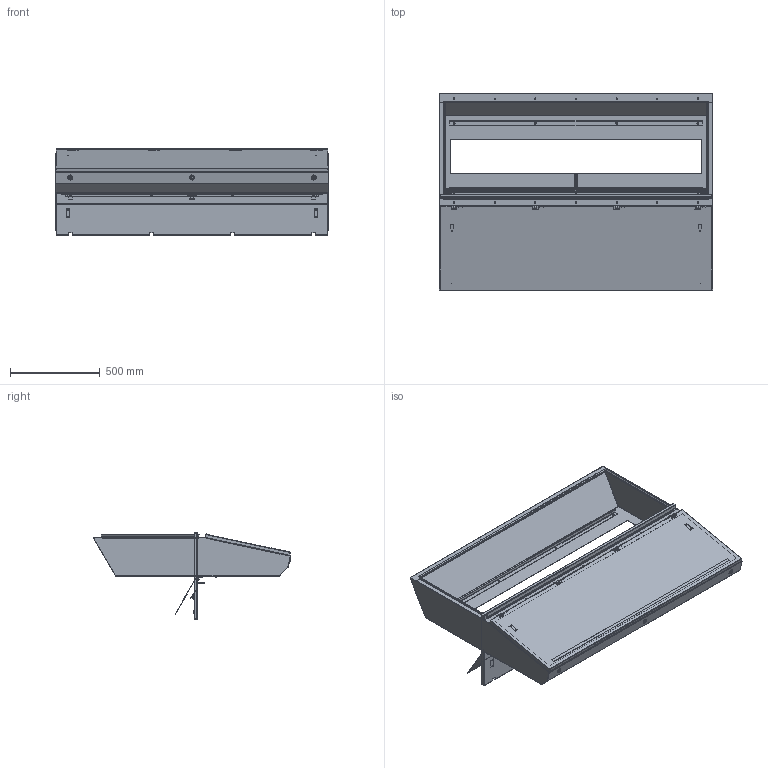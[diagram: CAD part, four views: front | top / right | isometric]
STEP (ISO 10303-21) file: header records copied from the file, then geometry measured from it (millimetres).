
FILE_DESCRIPTION( ( 'Unknown' ), '1' );
FILE_NAME( 'Q:/2000 SERIES/DESK UNITS/WEB DRAWINGS/STEP/2CSD86043.stp', 'Unknown', ( 'Unknown' ), ( 'Unknown' ), 'XStep 1.0', 'Unknown', ' ' );
FILE_SCHEMA( ( 'CONFIG_CONTROL_DESIGN' ) );
Length unit declared in the file: millimetre
Products named in the file (32): Assem1; Assem2; Assem3; Assem4; Assem5; Assem6; Assem7; Assem8; Assem9; 1; 2; 3; 4; 5; 6; 7; 8; 9; 10; 11; 12; 13; 14; 15; 16; 17; 18; 19; 20; 21; 22; 23
Bounding box: 1524 x 1099.94 x 482.6 mm (x, y, z)
Volume: 19858410.3 mm3; surface area: 21703331 mm2
Topology: 129 solids, 129 shells, 3089 faces, 7692 edges, 4987 vertices
Faces by surface type: plane 2024, cylinder 868, bspline 84, cone 58, torus 45, sphere 10
Full cylindrical faces by diameter (mm): 3.175 x20, 4.648 x10, 4.763 x20, 4.801 x12, 5 x11, 5.537 x30, 5.969 x6, 6 x5, 6.096 x6, 6.299 x5, 6.35 x22, 7.137 x18, 7.925 x11, 7.938 x12, 8.331 x5, 9.804 x15, 9.83 x10, 9.931 x9, 10.312 x5, 11.1 x5, 12.7 x20, 12.751 x5, 13.335 x5, 15.875 x5, 16.002 x5, 17.45 x5, 19.5 x5, 19.939 x5, 25.4 x5
Entity records: 25267 total; most frequent: CARTESIAN_POINT 5437, DIRECTION 3761, ORIENTED_EDGE 3698, EDGE_CURVE 1849, LINE 1347, VECTOR 1347, VERTEX_POINT 1227, AXIS2_PLACEMENT_3D 1207
